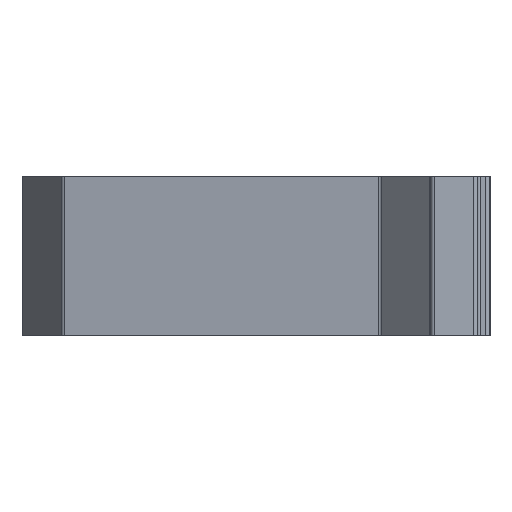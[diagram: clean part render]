
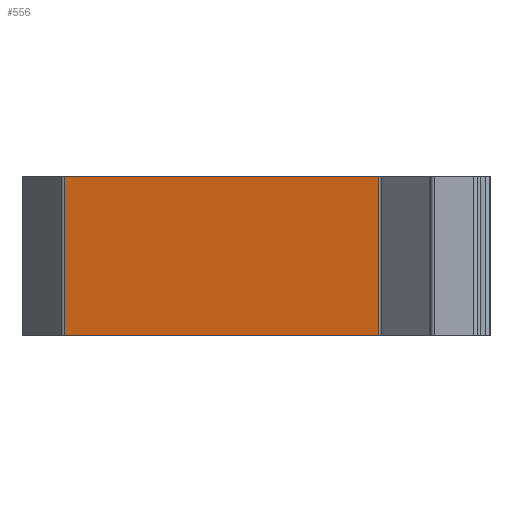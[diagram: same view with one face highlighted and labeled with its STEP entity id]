
A CAD part, front view. The second image highlights one B-rep face of the part: STEP entity #556.
In plain terms, the highlighted planar face has unit normal (-0.158, -0.988, 0).
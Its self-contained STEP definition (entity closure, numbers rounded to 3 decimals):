
#73 = VECTOR ( 'NONE', #1359, 1000. ) ;
#144 = EDGE_CURVE ( 'NONE', #1260, #304, #316, .T. ) ;
#154 = VECTOR ( 'NONE', #492, 1000. ) ;
#184 = LINE ( 'NONE', #1694, #154 ) ;
#212 = CARTESIAN_POINT ( 'NONE',  ( -52.835, 30.883, 20. ) ) ;
#304 = VERTEX_POINT ( 'NONE', #361 ) ;
#316 = LINE ( 'NONE', #629, #73 ) ;
#361 = CARTESIAN_POINT ( 'NONE',  ( -13.531, 24.597, 0. ) ) ;
#367 = CARTESIAN_POINT ( 'NONE',  ( -13.531, 24.597, 20. ) ) ;
#383 = EDGE_LOOP ( 'NONE', ( #1142, #1021, #600, #1371 ) ) ;
#404 = EDGE_CURVE ( 'NONE', #1565, #1260, #184, .T. ) ;
#492 = DIRECTION ( 'NONE',  ( 0.987, -0.158, 0. ) ) ;
#556 = ADVANCED_FACE ( 'NONE', ( #573 ), #569, .F. ) ;
#569 = PLANE ( 'NONE',  #723 ) ;
#573 = FACE_OUTER_BOUND ( 'NONE', #383, .T. ) ;
#583 = LINE ( 'NONE', #212, #1741 ) ;
#600 = ORIENTED_EDGE ( 'NONE', *, *, #404, .F. ) ;
#629 = CARTESIAN_POINT ( 'NONE',  ( -13.531, 24.597, 20. ) ) ;
#639 = VECTOR ( 'NONE', #1357, 1000. ) ;
#690 = CARTESIAN_POINT ( 'NONE',  ( -52.835, 30.883, 20. ) ) ;
#723 = AXIS2_PLACEMENT_3D ( 'NONE', #1454, #1894, #1136 ) ;
#957 = CARTESIAN_POINT ( 'NONE',  ( -52.835, 30.883, 0. ) ) ;
#1021 = ORIENTED_EDGE ( 'NONE', *, *, #144, .F. ) ;
#1035 = LINE ( 'NONE', #1496, #639 ) ;
#1135 = EDGE_CURVE ( 'NONE', #1474, #304, #1035, .T. ) ;
#1136 = DIRECTION ( 'NONE',  ( -0.987, 0.158, 0. ) ) ;
#1142 = ORIENTED_EDGE ( 'NONE', *, *, #1135, .T. ) ;
#1234 = DIRECTION ( 'NONE',  ( 0., 0., -1. ) ) ;
#1260 = VERTEX_POINT ( 'NONE', #367 ) ;
#1357 = DIRECTION ( 'NONE',  ( 0.987, -0.158, 0. ) ) ;
#1359 = DIRECTION ( 'NONE',  ( 0., 0., -1. ) ) ;
#1371 = ORIENTED_EDGE ( 'NONE', *, *, #1430, .T. ) ;
#1430 = EDGE_CURVE ( 'NONE', #1565, #1474, #583, .T. ) ;
#1454 = CARTESIAN_POINT ( 'NONE',  ( -13.531, 24.597, 20. ) ) ;
#1474 = VERTEX_POINT ( 'NONE', #957 ) ;
#1496 = CARTESIAN_POINT ( 'NONE',  ( -13.531, 24.597, 0. ) ) ;
#1565 = VERTEX_POINT ( 'NONE', #690 ) ;
#1694 = CARTESIAN_POINT ( 'NONE',  ( -13.531, 24.597, 20. ) ) ;
#1741 = VECTOR ( 'NONE', #1234, 1000. ) ;
#1894 = DIRECTION ( 'NONE',  ( 0.158, 0.987, 0. ) ) ;
